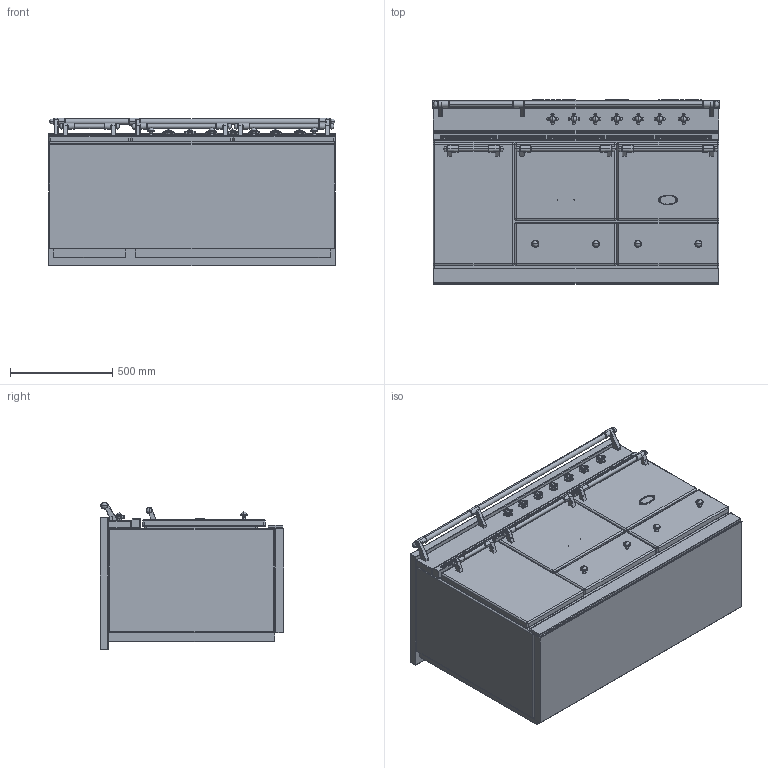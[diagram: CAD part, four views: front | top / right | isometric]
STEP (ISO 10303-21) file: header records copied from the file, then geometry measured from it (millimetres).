
FILE_DESCRIPTION((''),'2;1');
FILE_NAME('LVTR1452G_ASM','2014-07-29T',('r.avril'),(''),'PRO/ENGINEER BY PARAMETRIC TECHNOLOGY CORPORATION, 2014090','PRO/ENGINEER BY PARAMETRIC TECHNOLOGY CORPORATION, 2014090','');
FILE_SCHEMA(('AP203_CONFIGURATION_CONTROLLED_3D_DESIGN_OF_MECHANICAL_PARTS_AND_ASSEMBLIES_MIM_LF { 1 0 10303 403 2 1 2 }'));
Products named in the file (18): BASE_EXPORT_CLUNY_1400G; 65650003; 65650004; 6531940; 6531941; 6538399; 1931942; 6518450; 6531942_ASM; 6531943; 65049009; 65650001; 65650007; BASE_EXPORT_CLUNY_1400G_ASM; TABLE_1400G_VTR; 65052005; TABLE_1400G_VTR_ASM; LVTR1452G_ASM
Assembly tree (30 placements, depth 4):
  LVTR1452G_ASM
    BASE_EXPORT_CLUNY_1400G_ASM
      BASE_EXPORT_CLUNY_1400G
      65650003
      65650004
      6531940  x3
      6531941  x3
      6531942_ASM  x7
        6538399
        1931942
        6518450
      6531943  x4
      65049009
      65650001
      65650007
    TABLE_1400G_VTR_ASM
      TABLE_1400G_VTR
      65052005
Bounding box: 1405 x 901 x 724 mm (x, y, z)
Volume: 734749064.3 mm3; surface area: 11340008.9 mm2
Topology: 40 solids, 53 shells, 3679 faces, 10062 edges, 6770 vertices
Faces by surface type: plane 1870, cylinder 1055, torus 224, extrusion 198, sphere 184, cone 76, bspline 56, revolution 16
Entity records: 70003 total; most frequent: CARTESIAN_POINT 13424, DIRECTION 9569, ORIENTED_EDGE 7738, EDGE_CURVE 3881, AXIS2_PLACEMENT_3D 3412, VECTOR 2683, LINE 2653, VERTEX_POINT 2446
